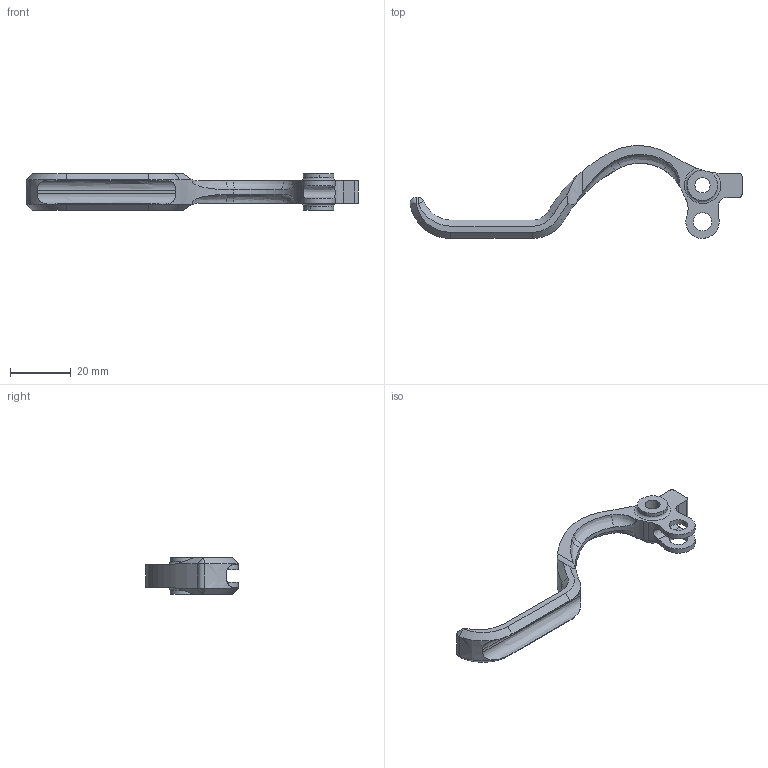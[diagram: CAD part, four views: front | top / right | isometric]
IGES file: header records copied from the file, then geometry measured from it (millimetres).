
Start section: IGES file generated from Kompas f.0 for Windows drawing by the IGES translator from Ascon Ltd., translator version IGESOUT-5.1.
Global section: file name: C:\Users\Urasik\Desktop\Verzin\Ðû÷àã ãèäðàâëè÷åñêîãî îáîäíîãî òîðìàçà Verzin\Ðû÷àã-ïåðåäíèé.igs; native system: Kompas( 32 bit ) for Windows; preprocessor: 1.0; author: unknown; organization: ASCON; date: -17861001:115341; units: millimetre
Bounding box: 109.32 x 30.58 x 12 mm (x, y, z)
Volume: 6106.1 mm3; surface area: 4730.9 mm2
Topology: 1 solids, 1 shells, 88 faces, 234 edges, 144 vertices
Faces by surface type: revolution 65, bspline 23
